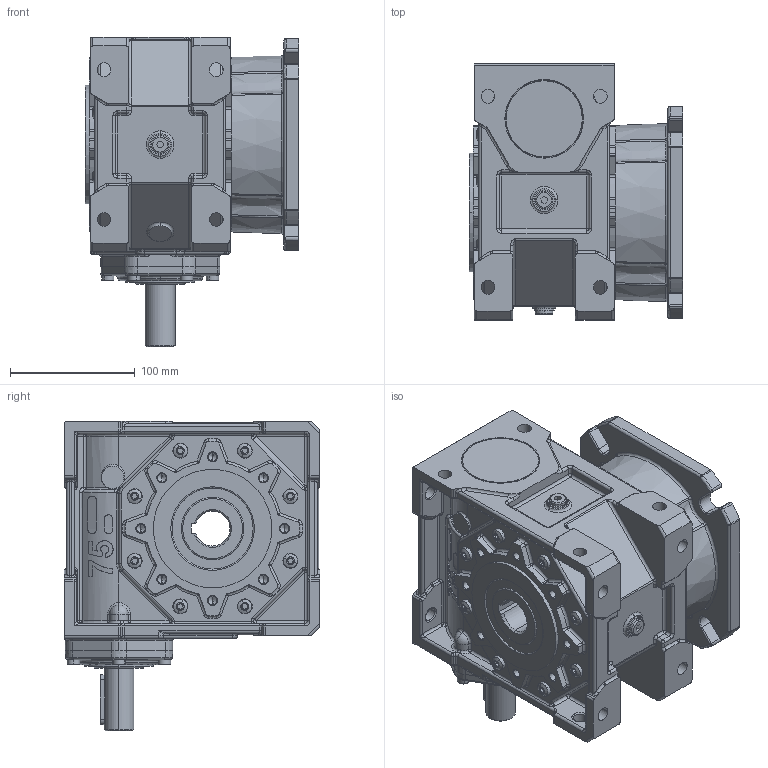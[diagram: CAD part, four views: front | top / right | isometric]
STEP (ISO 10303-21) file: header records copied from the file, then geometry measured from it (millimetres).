
FILE_DESCRIPTION (( 'STEP AP214' ), '1' );
FILE_NAME ('MKT75-FFL-Solid Shaft.STEP', '2006-05-10T05:12:07', ( '' ), ( '' ), 'SwSTEP 2.0', 'SolidWorks 2004146', '' );
FILE_SCHEMA (( 'AUTOMOTIVE_DESIGN' ));
Length unit declared in the file: millimetre
Products named in the file (6): Skrin MKT75_MKT 75 Solid Shaft; Pøíruba FF MKT 75_Výchozí; MKT75-FFL-Solid Shaft; D6912_Šroub DIN 6912 - M6x25; D6912_Šroub DIN 6912 - M8x25; Víèko RT80_Výchozí
Assembly tree (13 placements, depth 2):
  MKT75-FFL-Solid Shaft
    D6912_Šroub DIN 6912 - M6x25  x6
    D6912_Šroub DIN 6912 - M8x25  x4
    Skrin MKT75_MKT 75 Solid Shaft
    Víèko RT80_Výchozí
    Pøíruba FF MKT 75_Výchozí
Bounding box: 171 x 205 x 248 mm (x, y, z)
Volume: 3519427 mm3; surface area: 349189.2 mm2
Topology: 13 solids, 13 shells, 2667 faces, 6210 edges, 3490 vertices
Faces by surface type: cylinder 1012, plane 494, torus 434, cone 261, bspline 233, sphere 233
Entity records: 199833 total; most frequent: CARTESIAN_POINT 141985, DIRECTION 12167, ORIENTED_EDGE 10928, EDGE_CURVE 5464, AXIS2_PLACEMENT_3D 5150, VERTEX_POINT 3206, CIRCLE 2996, EDGE_LOOP 2528
